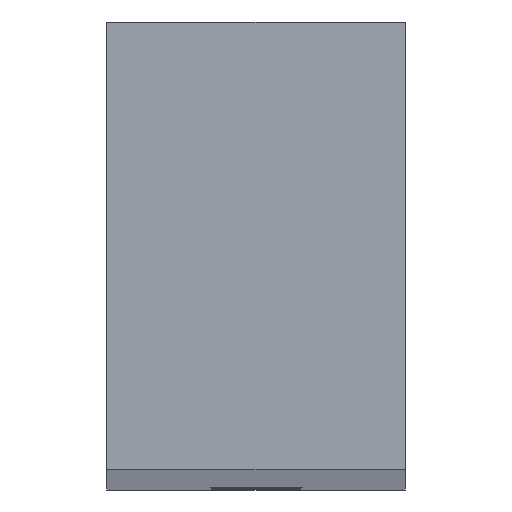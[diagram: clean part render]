
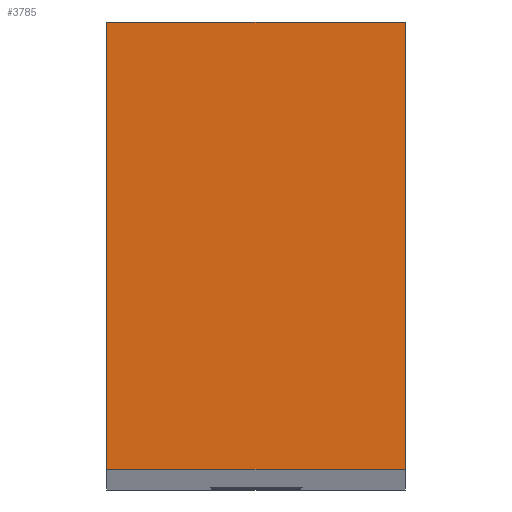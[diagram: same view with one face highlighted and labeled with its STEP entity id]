
A CAD part, top view. The second image highlights one B-rep face of the part: STEP entity #3785.
In plain terms, the highlighted planar face has unit normal (0, 0, 1).
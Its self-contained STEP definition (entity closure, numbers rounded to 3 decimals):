
#88 = VERTEX_POINT ( 'NONE', #2353 ) ;
#339 = DIRECTION ( 'NONE',  ( 0., 1., 0. ) ) ;
#828 = CARTESIAN_POINT ( 'NONE',  ( 160., -180., 436. ) ) ;
#1102 = VERTEX_POINT ( 'NONE', #5405 ) ;
#1231 = LINE ( 'NONE', #3434, #3565 ) ;
#1894 = DIRECTION ( 'NONE',  ( 0., 0., -1. ) ) ;
#1936 = DIRECTION ( 'NONE',  ( -1., 0., 0. ) ) ;
#1946 = ORIENTED_EDGE ( 'NONE', *, *, #3081, .F. ) ;
#1956 = PLANE ( 'NONE',  #6537 ) ;
#1994 = EDGE_CURVE ( 'NONE', #1102, #88, #5988, .T. ) ;
#2050 = VERTEX_POINT ( 'NONE', #2420 ) ;
#2287 = VECTOR ( 'NONE', #5718, 1000. ) ;
#2353 = CARTESIAN_POINT ( 'NONE',  ( 150., -165., 436. ) ) ;
#2420 = CARTESIAN_POINT ( 'NONE',  ( 160., -165., 436. ) ) ;
#2424 = LINE ( 'NONE', #6061, #2506 ) ;
#2475 = ORIENTED_EDGE ( 'NONE', *, *, #5095, .F. ) ;
#2506 = VECTOR ( 'NONE', #1936, 1000. ) ;
#2654 = VERTEX_POINT ( 'NONE', #828 ) ;
#2678 = CARTESIAN_POINT ( 'NONE',  ( 186., -165., 436. ) ) ;
#2887 = DIRECTION ( 'NONE',  ( 0., -1., 0. ) ) ;
#2984 = EDGE_CURVE ( 'NONE', #2654, #1102, #2424, .T. ) ;
#3081 = EDGE_CURVE ( 'NONE', #88, #2050, #4219, .T. ) ;
#3434 = CARTESIAN_POINT ( 'NONE',  ( 160., -155., 436. ) ) ;
#3496 = CARTESIAN_POINT ( 'NONE',  ( 186., -200., 436. ) ) ;
#3565 = VECTOR ( 'NONE', #2887, 1000. ) ;
#3785 = ADVANCED_FACE ( 'NONE', ( #6562 ), #1956, .F. ) ;
#4041 = CARTESIAN_POINT ( 'NONE',  ( 150., -200., 436. ) ) ;
#4219 = LINE ( 'NONE', #2678, #2287 ) ;
#5011 = ORIENTED_EDGE ( 'NONE', *, *, #1994, .F. ) ;
#5095 = EDGE_CURVE ( 'NONE', #2050, #2654, #1231, .T. ) ;
#5405 = CARTESIAN_POINT ( 'NONE',  ( 150., -180., 436. ) ) ;
#5492 = EDGE_LOOP ( 'NONE', ( #1946, #5011, #5890, #2475 ) ) ;
#5535 = DIRECTION ( 'NONE',  ( -1., 0., 0. ) ) ;
#5718 = DIRECTION ( 'NONE',  ( 1., 0., 0. ) ) ;
#5831 = VECTOR ( 'NONE', #339, 1000. ) ;
#5890 = ORIENTED_EDGE ( 'NONE', *, *, #2984, .F. ) ;
#5988 = LINE ( 'NONE', #4041, #5831 ) ;
#6061 = CARTESIAN_POINT ( 'NONE',  ( 166., -180., 436. ) ) ;
#6537 = AXIS2_PLACEMENT_3D ( 'NONE', #3496, #1894, #5535 ) ;
#6562 = FACE_OUTER_BOUND ( 'NONE', #5492, .T. ) ;
